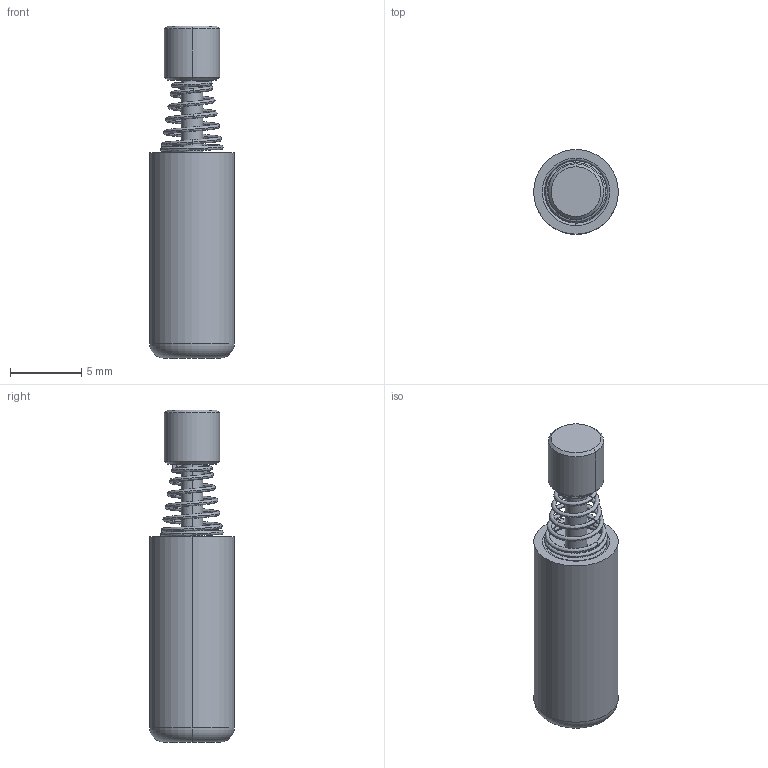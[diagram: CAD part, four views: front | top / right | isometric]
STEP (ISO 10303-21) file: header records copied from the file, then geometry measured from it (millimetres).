
FILE_DESCRIPTION((''),'2;1');
FILE_NAME('F005-06-024_AUS_SW0001','2020-11-05T',('pcammann'),(''),'CREO PARAMETRIC BY PTC INC, 2017020','CREO PARAMETRIC BY PTC INC, 2017020','');
FILE_SCHEMA(('AUTOMOTIVE_DESIGN { 1 0 10303 214 1 1 1 1 }'));
Products named in the file (1): F005-06-024_AUS_SW0001
Bounding box: 5.95 x 5.95 x 23.35 mm (x, y, z)
Volume: 312.8 mm3; surface area: 681 mm2
Topology: 3 solids, 3 shells, 72 faces, 140 edges, 79 vertices
Faces by surface type: cylinder 18, torus 16, bspline 14, plane 12, cone 10, sphere 2
Entity records: 37109 total; most frequent: CARTESIAN_POINT 34100, DIRECTION 308, ORIENTED_EDGE 276, PRESENTATION_STYLE_ASSIGNMENT 213, STYLED_ITEM 141, AXIS2_PLACEMENT_3D 140, CURVE_STYLE 138, EDGE_CURVE 138
